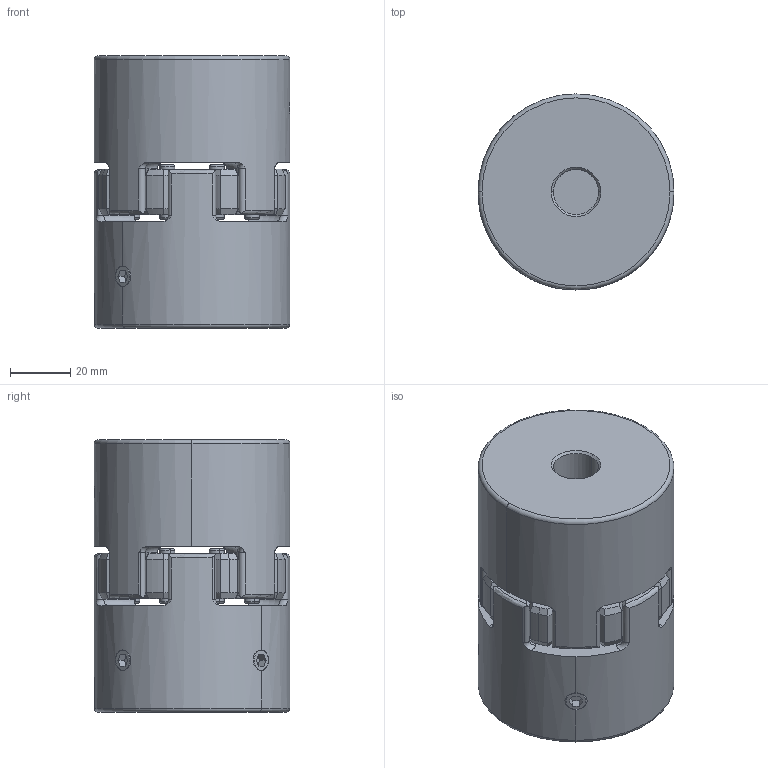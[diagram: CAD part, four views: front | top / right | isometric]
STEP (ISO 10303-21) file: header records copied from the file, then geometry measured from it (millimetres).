
FILE_DESCRIPTION (( 'STEP AP203' ), '1' );
FILE_NAME ('SJC-65-15X35_203.STEP', '2013-02-20T02:04:06', ( 'MYCOM' ), ( '' ), 'SwSTEP 2.0', 'SolidWorks 2012', '' );
FILE_SCHEMA (( 'CONFIG_CONTROL_DESIGN' ));
Length unit declared in the file: millimetre
Products named in the file (1): SJC-65-15X35_203
Bounding box: 65 x 65 x 90.3 mm (x, y, z)
Volume: 232479.9 mm3; surface area: 44518 mm2
Topology: 1 solids, 1 shells, 411 faces, 1105 edges, 679 vertices
Faces by surface type: cylinder 157, cone 106, torus 84, plane 64
Entity records: 14321 total; most frequent: CARTESIAN_POINT 3930, DIRECTION 2264, ORIENTED_EDGE 2194, EDGE_CURVE 1097, AXIS2_PLACEMENT_3D 975, VERTEX_POINT 679, CIRCLE 563, EDGE_LOOP 434
